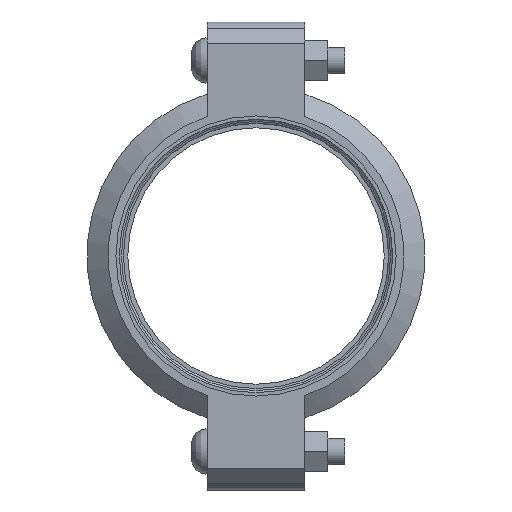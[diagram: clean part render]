
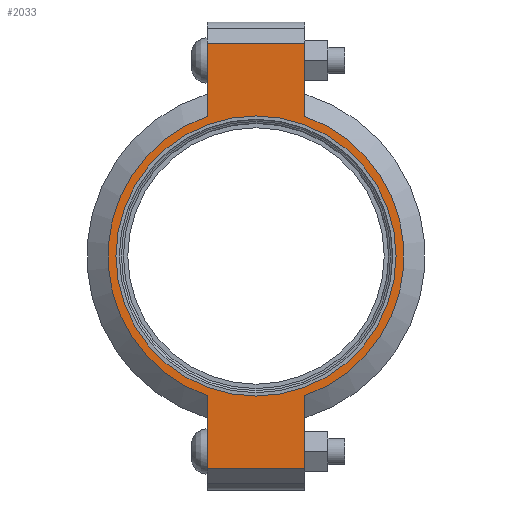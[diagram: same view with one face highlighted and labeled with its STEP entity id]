
A CAD part, left-side view. The second image highlights one B-rep face of the part: STEP entity #2033.
In plain terms, the highlighted planar face has unit normal (-1, 0, 0) as drawn and (0, 0, 1) by its records, which use the part's own axes.
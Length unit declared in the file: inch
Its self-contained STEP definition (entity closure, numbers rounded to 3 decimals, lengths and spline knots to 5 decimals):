
#166=LINE('',#3626,#265);
#174=LINE('',#3662,#273);
#181=LINE('',#3683,#280);
#190=LINE('',#3715,#289);
#191=LINE('',#3719,#290);
#192=LINE('',#3721,#291);
#265=VECTOR('',#2972,0.3937);
#273=VECTOR('',#2988,0.3937);
#280=VECTOR('',#3007,0.3937);
#289=VECTOR('',#3032,0.3937);
#290=VECTOR('',#3037,0.3937);
#291=VECTOR('',#3038,0.3937);
#351=FACE_BOUND('',#621,.T.);
#397=PLANE('',#2398);
#493=FACE_OUTER_BOUND('',#620,.T.);
#620=EDGE_LOOP('',(#1762,#1763,#1764,#1765,#1766,#1767,#1768,#1769));
#621=EDGE_LOOP('',(#1770));
#768=CIRCLE('',#2340,3.3125);
#794=CIRCLE('',#2399,3.5);
#795=CIRCLE('',#2400,3.5);
#919=VERTEX_POINT('',#3442);
#962=VERTEX_POINT('',#3623);
#963=VERTEX_POINT('',#3625);
#974=VERTEX_POINT('',#3657);
#975=VERTEX_POINT('',#3661);
#982=VERTEX_POINT('',#3680);
#983=VERTEX_POINT('',#3682);
#993=VERTEX_POINT('',#3718);
#994=VERTEX_POINT('',#3720);
#1156=EDGE_CURVE('',#919,#919,#768,.T.);
#1217=EDGE_CURVE('',#963,#962,#166,.T.);
#1231=EDGE_CURVE('',#975,#974,#174,.T.);
#1241=EDGE_CURVE('',#983,#982,#181,.T.);
#1256=EDGE_CURVE('',#975,#962,#190,.T.);
#1257=EDGE_CURVE('',#974,#983,#794,.T.);
#1258=EDGE_CURVE('',#993,#982,#191,.T.);
#1259=EDGE_CURVE('',#993,#994,#192,.T.);
#1260=EDGE_CURVE('',#994,#963,#795,.T.);
#1762=ORIENTED_EDGE('',*,*,#1256,.F.);
#1763=ORIENTED_EDGE('',*,*,#1231,.T.);
#1764=ORIENTED_EDGE('',*,*,#1257,.T.);
#1765=ORIENTED_EDGE('',*,*,#1241,.T.);
#1766=ORIENTED_EDGE('',*,*,#1258,.F.);
#1767=ORIENTED_EDGE('',*,*,#1259,.T.);
#1768=ORIENTED_EDGE('',*,*,#1260,.T.);
#1769=ORIENTED_EDGE('',*,*,#1217,.T.);
#1770=ORIENTED_EDGE('',*,*,#1156,.T.);
#2033=ADVANCED_FACE('',(#493,#351),#397,.T.);
#2340=AXIS2_PLACEMENT_3D('',#3444,#2848,#2849);
#2398=AXIS2_PLACEMENT_3D('',#3716,#3033,#3034);
#2399=AXIS2_PLACEMENT_3D('',#3717,#3035,#3036);
#2400=AXIS2_PLACEMENT_3D('',#3722,#3039,#3040);
#2848=DIRECTION('center_axis',(0.,0.,-1.));
#2849=DIRECTION('ref_axis',(1.,0.,0.));
#2972=DIRECTION('',(1.,0.,0.));
#2988=DIRECTION('',(-1.,0.,0.));
#3007=DIRECTION('',(-1.,0.,0.));
#3032=DIRECTION('',(0.,-1.,0.));
#3033=DIRECTION('center_axis',(0.,0.,1.));
#3034=DIRECTION('ref_axis',(-1.,0.,0.));
#3035=DIRECTION('center_axis',(0.,0.,1.));
#3036=DIRECTION('ref_axis',(1.,0.,0.));
#3037=DIRECTION('',(0.,1.,0.));
#3038=DIRECTION('',(1.,0.,0.));
#3039=DIRECTION('center_axis',(0.,0.,1.));
#3040=DIRECTION('ref_axis',(1.,0.,0.));
#3442=CARTESIAN_POINT('',(-3.3125,0.,1.065));
#3444=CARTESIAN_POINT('Origin',(0.,0.,1.065));
#3623=CARTESIAN_POINT('',(5.035,-1.156,1.065));
#3625=CARTESIAN_POINT('',(3.30358,-1.156,1.065));
#3626=CARTESIAN_POINT('',(5.535,-1.156,1.065));
#3657=CARTESIAN_POINT('',(3.30358,1.156,1.065));
#3661=CARTESIAN_POINT('',(5.035,1.156,1.065));
#3662=CARTESIAN_POINT('',(-5.535,1.156,1.065));
#3680=CARTESIAN_POINT('',(-5.035,1.156,1.065));
#3682=CARTESIAN_POINT('',(-3.30358,1.156,1.065));
#3683=CARTESIAN_POINT('',(-5.535,1.156,1.065));
#3715=CARTESIAN_POINT('',(5.035,-0.578,1.065));
#3716=CARTESIAN_POINT('Origin',(0.,0.,
1.065));
#3717=CARTESIAN_POINT('Origin',(0.,0.,1.065));
#3718=CARTESIAN_POINT('',(-5.035,-1.156,1.065));
#3719=CARTESIAN_POINT('',(-5.035,0.578,1.065));
#3720=CARTESIAN_POINT('',(-3.30358,-1.156,1.065));
#3721=CARTESIAN_POINT('',(5.535,-1.156,1.065));
#3722=CARTESIAN_POINT('Origin',(0.,0.,1.065));
